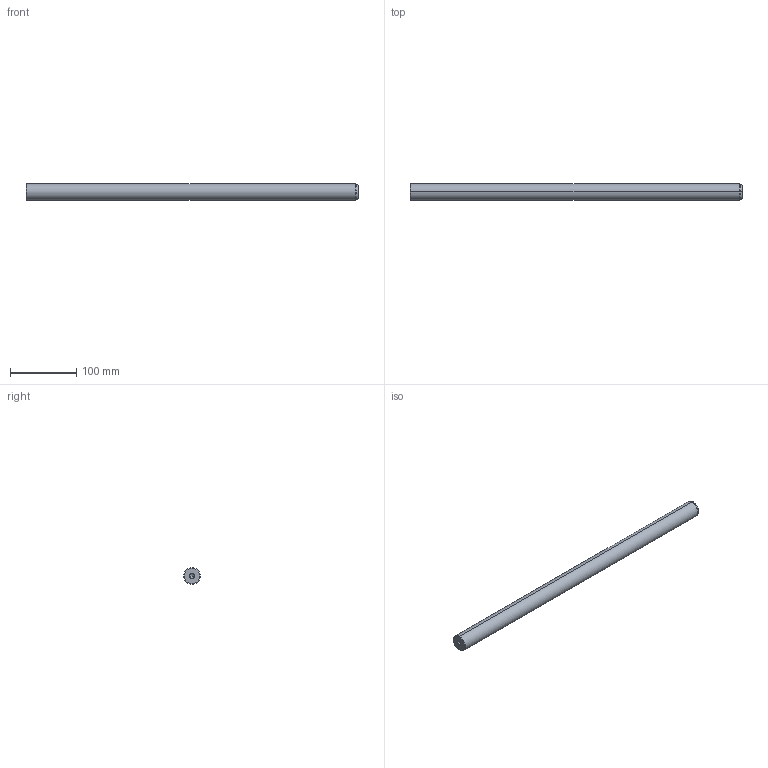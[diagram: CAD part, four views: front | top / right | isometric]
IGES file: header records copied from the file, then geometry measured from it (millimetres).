
Start section: START RECORD GO HERE.
Global section: file name: 720-25x500.igs; native system: DASSAULT SYSTEMES CATIA V5 R20 - www.3ds.com; preprocessor: CATIA Version 5 Release 20 ; author: Utente; organization: NB04-ASUS; date: 20210101.133552; units: millimetre
Bounding box: 500 x 25 x 25 mm (x, y, z)
Surface area: 41080.5 mm2 (no closed solid volume)
Topology: 0 solids, 0 shells, 22 faces, 120 edges, 116 vertices
Faces by surface type: revolution 20, plane 2
